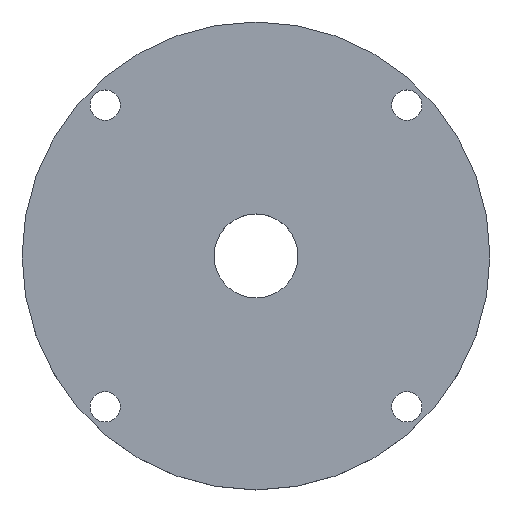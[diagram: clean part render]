
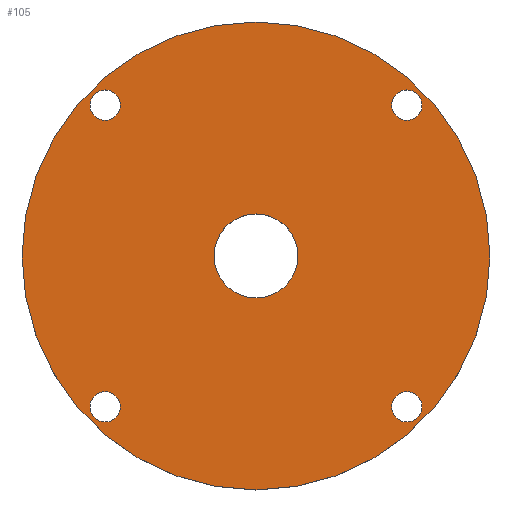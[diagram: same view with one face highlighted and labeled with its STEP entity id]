
A CAD part, top view. The second image highlights one B-rep face of the part: STEP entity #105.
In plain terms, the highlighted planar face has unit normal (0, 0, 1).
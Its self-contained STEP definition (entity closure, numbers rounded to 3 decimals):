
#21 = EDGE_CURVE('',#22,#22,#24,.T.);
#22 = VERTEX_POINT('',#23);
#23 = CARTESIAN_POINT('',(17.,0.,0.));
#24 = SURFACE_CURVE('',#25,(#30,#42),.PCURVE_S1.);
#25 = CIRCLE('',#26,17.);
#26 = AXIS2_PLACEMENT_3D('',#27,#28,#29);
#27 = CARTESIAN_POINT('',(0.,0.,0.));
#28 = DIRECTION('',(0.,0.,1.));
#29 = DIRECTION('',(1.,0.,-0.));
#30 = PCURVE('',#31,#36);
#31 = CYLINDRICAL_SURFACE('',#32,17.);
#32 = AXIS2_PLACEMENT_3D('',#33,#34,#35);
#33 = CARTESIAN_POINT('',(0.,0.,-3.));
#34 = DIRECTION('',(0.,0.,1.));
#35 = DIRECTION('',(1.,0.,-0.));
#36 = DEFINITIONAL_REPRESENTATION('',(#37),#41);
#37 = LINE('',#38,#39);
#38 = CARTESIAN_POINT('',(0.,3.));
#39 = VECTOR('',#40,1.);
#40 = DIRECTION('',(1.,0.));
#41 = ( GEOMETRIC_REPRESENTATION_CONTEXT(2) 
PARAMETRIC_REPRESENTATION_CONTEXT() REPRESENTATION_CONTEXT('2D SPACE',''
  ) );
#42 = PCURVE('',#43,#48);
#43 = PLANE('',#44);
#44 = AXIS2_PLACEMENT_3D('',#45,#46,#47);
#45 = CARTESIAN_POINT('',(0.,0.,0.));
#46 = DIRECTION('',(0.,0.,1.));
#47 = DIRECTION('',(1.,0.,-0.));
#48 = DEFINITIONAL_REPRESENTATION('',(#49),#53);
#49 = CIRCLE('',#50,17.);
#50 = AXIS2_PLACEMENT_2D('',#51,#52);
#51 = CARTESIAN_POINT('',(0.,0.));
#52 = DIRECTION('',(1.,0.));
#53 = ( GEOMETRIC_REPRESENTATION_CONTEXT(2) 
PARAMETRIC_REPRESENTATION_CONTEXT() REPRESENTATION_CONTEXT('2D SPACE',''
  ) );
#105 = ADVANCED_FACE('',(#106,#109,#140,#171,#202,#233),#43,.T.);
#106 = FACE_BOUND('',#107,.T.);
#107 = EDGE_LOOP('',(#108));
#108 = ORIENTED_EDGE('',*,*,#21,.T.);
#109 = FACE_BOUND('',#110,.T.);
#110 = EDGE_LOOP('',(#111));
#111 = ORIENTED_EDGE('',*,*,#112,.F.);
#112 = EDGE_CURVE('',#113,#113,#115,.T.);
#113 = VERTEX_POINT('',#114);
#114 = CARTESIAN_POINT('',(-9.86,-10.96,0.));
#115 = SURFACE_CURVE('',#116,(#121,#128),.PCURVE_S1.);
#116 = CIRCLE('',#117,1.1);
#117 = AXIS2_PLACEMENT_3D('',#118,#119,#120);
#118 = CARTESIAN_POINT('',(-10.96,-10.96,0.));
#119 = DIRECTION('',(0.,0.,1.));
#120 = DIRECTION('',(1.,0.,-0.));
#121 = PCURVE('',#43,#122);
#122 = DEFINITIONAL_REPRESENTATION('',(#123),#127);
#123 = CIRCLE('',#124,1.1);
#124 = AXIS2_PLACEMENT_2D('',#125,#126);
#125 = CARTESIAN_POINT('',(-10.96,-10.96));
#126 = DIRECTION('',(1.,0.));
#127 = ( GEOMETRIC_REPRESENTATION_CONTEXT(2) 
PARAMETRIC_REPRESENTATION_CONTEXT() REPRESENTATION_CONTEXT('2D SPACE',''
  ) );
#128 = PCURVE('',#129,#134);
#129 = CYLINDRICAL_SURFACE('',#130,1.1);
#130 = AXIS2_PLACEMENT_3D('',#131,#132,#133);
#131 = CARTESIAN_POINT('',(-10.96,-10.96,-3.1));
#132 = DIRECTION('',(0.,0.,1.));
#133 = DIRECTION('',(1.,0.,-0.));
#134 = DEFINITIONAL_REPRESENTATION('',(#135),#139);
#135 = LINE('',#136,#137);
#136 = CARTESIAN_POINT('',(0.,3.1));
#137 = VECTOR('',#138,1.);
#138 = DIRECTION('',(1.,0.));
#139 = ( GEOMETRIC_REPRESENTATION_CONTEXT(2) 
PARAMETRIC_REPRESENTATION_CONTEXT() REPRESENTATION_CONTEXT('2D SPACE',''
  ) );
#140 = FACE_BOUND('',#141,.T.);
#141 = EDGE_LOOP('',(#142));
#142 = ORIENTED_EDGE('',*,*,#143,.F.);
#143 = EDGE_CURVE('',#144,#144,#146,.T.);
#144 = VERTEX_POINT('',#145);
#145 = CARTESIAN_POINT('',(12.06,-10.96,0.));
#146 = SURFACE_CURVE('',#147,(#152,#159),.PCURVE_S1.);
#147 = CIRCLE('',#148,1.1);
#148 = AXIS2_PLACEMENT_3D('',#149,#150,#151);
#149 = CARTESIAN_POINT('',(10.96,-10.96,0.));
#150 = DIRECTION('',(0.,0.,1.));
#151 = DIRECTION('',(1.,0.,-0.));
#152 = PCURVE('',#43,#153);
#153 = DEFINITIONAL_REPRESENTATION('',(#154),#158);
#154 = CIRCLE('',#155,1.1);
#155 = AXIS2_PLACEMENT_2D('',#156,#157);
#156 = CARTESIAN_POINT('',(10.96,-10.96));
#157 = DIRECTION('',(1.,0.));
#158 = ( GEOMETRIC_REPRESENTATION_CONTEXT(2) 
PARAMETRIC_REPRESENTATION_CONTEXT() REPRESENTATION_CONTEXT('2D SPACE',''
  ) );
#159 = PCURVE('',#160,#165);
#160 = CYLINDRICAL_SURFACE('',#161,1.1);
#161 = AXIS2_PLACEMENT_3D('',#162,#163,#164);
#162 = CARTESIAN_POINT('',(10.96,-10.96,-3.1));
#163 = DIRECTION('',(0.,0.,1.));
#164 = DIRECTION('',(1.,0.,-0.));
#165 = DEFINITIONAL_REPRESENTATION('',(#166),#170);
#166 = LINE('',#167,#168);
#167 = CARTESIAN_POINT('',(0.,3.1));
#168 = VECTOR('',#169,1.);
#169 = DIRECTION('',(1.,0.));
#170 = ( GEOMETRIC_REPRESENTATION_CONTEXT(2) 
PARAMETRIC_REPRESENTATION_CONTEXT() REPRESENTATION_CONTEXT('2D SPACE',''
  ) );
#171 = FACE_BOUND('',#172,.T.);
#172 = EDGE_LOOP('',(#173));
#173 = ORIENTED_EDGE('',*,*,#174,.F.);
#174 = EDGE_CURVE('',#175,#175,#177,.T.);
#175 = VERTEX_POINT('',#176);
#176 = CARTESIAN_POINT('',(-9.86,10.96,0.));
#177 = SURFACE_CURVE('',#178,(#183,#190),.PCURVE_S1.);
#178 = CIRCLE('',#179,1.1);
#179 = AXIS2_PLACEMENT_3D('',#180,#181,#182);
#180 = CARTESIAN_POINT('',(-10.96,10.96,0.));
#181 = DIRECTION('',(0.,0.,1.));
#182 = DIRECTION('',(1.,0.,-0.));
#183 = PCURVE('',#43,#184);
#184 = DEFINITIONAL_REPRESENTATION('',(#185),#189);
#185 = CIRCLE('',#186,1.1);
#186 = AXIS2_PLACEMENT_2D('',#187,#188);
#187 = CARTESIAN_POINT('',(-10.96,10.96));
#188 = DIRECTION('',(1.,0.));
#189 = ( GEOMETRIC_REPRESENTATION_CONTEXT(2) 
PARAMETRIC_REPRESENTATION_CONTEXT() REPRESENTATION_CONTEXT('2D SPACE',''
  ) );
#190 = PCURVE('',#191,#196);
#191 = CYLINDRICAL_SURFACE('',#192,1.1);
#192 = AXIS2_PLACEMENT_3D('',#193,#194,#195);
#193 = CARTESIAN_POINT('',(-10.96,10.96,-3.1));
#194 = DIRECTION('',(0.,0.,1.));
#195 = DIRECTION('',(1.,0.,-0.));
#196 = DEFINITIONAL_REPRESENTATION('',(#197),#201);
#197 = LINE('',#198,#199);
#198 = CARTESIAN_POINT('',(0.,3.1));
#199 = VECTOR('',#200,1.);
#200 = DIRECTION('',(1.,0.));
#201 = ( GEOMETRIC_REPRESENTATION_CONTEXT(2) 
PARAMETRIC_REPRESENTATION_CONTEXT() REPRESENTATION_CONTEXT('2D SPACE',''
  ) );
#202 = FACE_BOUND('',#203,.T.);
#203 = EDGE_LOOP('',(#204));
#204 = ORIENTED_EDGE('',*,*,#205,.F.);
#205 = EDGE_CURVE('',#206,#206,#208,.T.);
#206 = VERTEX_POINT('',#207);
#207 = CARTESIAN_POINT('',(3.05,0.,0.));
#208 = SURFACE_CURVE('',#209,(#214,#221),.PCURVE_S1.);
#209 = CIRCLE('',#210,3.05);
#210 = AXIS2_PLACEMENT_3D('',#211,#212,#213);
#211 = CARTESIAN_POINT('',(0.,0.,0.));
#212 = DIRECTION('',(0.,0.,1.));
#213 = DIRECTION('',(1.,0.,-0.));
#214 = PCURVE('',#43,#215);
#215 = DEFINITIONAL_REPRESENTATION('',(#216),#220);
#216 = CIRCLE('',#217,3.05);
#217 = AXIS2_PLACEMENT_2D('',#218,#219);
#218 = CARTESIAN_POINT('',(0.,0.));
#219 = DIRECTION('',(1.,0.));
#220 = ( GEOMETRIC_REPRESENTATION_CONTEXT(2) 
PARAMETRIC_REPRESENTATION_CONTEXT() REPRESENTATION_CONTEXT('2D SPACE',''
  ) );
#221 = PCURVE('',#222,#227);
#222 = CYLINDRICAL_SURFACE('',#223,3.05);
#223 = AXIS2_PLACEMENT_3D('',#224,#225,#226);
#224 = CARTESIAN_POINT('',(0.,0.,-3.01));
#225 = DIRECTION('',(0.,0.,1.));
#226 = DIRECTION('',(1.,0.,-0.));
#227 = DEFINITIONAL_REPRESENTATION('',(#228),#232);
#228 = LINE('',#229,#230);
#229 = CARTESIAN_POINT('',(0.,3.01));
#230 = VECTOR('',#231,1.);
#231 = DIRECTION('',(1.,0.));
#232 = ( GEOMETRIC_REPRESENTATION_CONTEXT(2) 
PARAMETRIC_REPRESENTATION_CONTEXT() REPRESENTATION_CONTEXT('2D SPACE',''
  ) );
#233 = FACE_BOUND('',#234,.T.);
#234 = EDGE_LOOP('',(#235));
#235 = ORIENTED_EDGE('',*,*,#236,.F.);
#236 = EDGE_CURVE('',#237,#237,#239,.T.);
#237 = VERTEX_POINT('',#238);
#238 = CARTESIAN_POINT('',(12.06,10.96,0.));
#239 = SURFACE_CURVE('',#240,(#245,#252),.PCURVE_S1.);
#240 = CIRCLE('',#241,1.1);
#241 = AXIS2_PLACEMENT_3D('',#242,#243,#244);
#242 = CARTESIAN_POINT('',(10.96,10.96,0.));
#243 = DIRECTION('',(0.,0.,1.));
#244 = DIRECTION('',(1.,0.,-0.));
#245 = PCURVE('',#43,#246);
#246 = DEFINITIONAL_REPRESENTATION('',(#247),#251);
#247 = CIRCLE('',#248,1.1);
#248 = AXIS2_PLACEMENT_2D('',#249,#250);
#249 = CARTESIAN_POINT('',(10.96,10.96));
#250 = DIRECTION('',(1.,0.));
#251 = ( GEOMETRIC_REPRESENTATION_CONTEXT(2) 
PARAMETRIC_REPRESENTATION_CONTEXT() REPRESENTATION_CONTEXT('2D SPACE',''
  ) );
#252 = PCURVE('',#253,#258);
#253 = CYLINDRICAL_SURFACE('',#254,1.1);
#254 = AXIS2_PLACEMENT_3D('',#255,#256,#257);
#255 = CARTESIAN_POINT('',(10.96,10.96,-3.1));
#256 = DIRECTION('',(0.,0.,1.));
#257 = DIRECTION('',(1.,0.,-0.));
#258 = DEFINITIONAL_REPRESENTATION('',(#259),#263);
#259 = LINE('',#260,#261);
#260 = CARTESIAN_POINT('',(0.,3.1));
#261 = VECTOR('',#262,1.);
#262 = DIRECTION('',(1.,0.));
#263 = ( GEOMETRIC_REPRESENTATION_CONTEXT(2) 
PARAMETRIC_REPRESENTATION_CONTEXT() REPRESENTATION_CONTEXT('2D SPACE',''
  ) );
